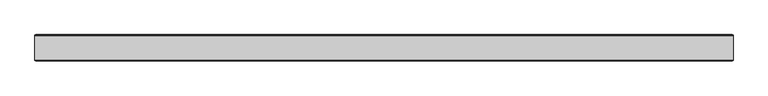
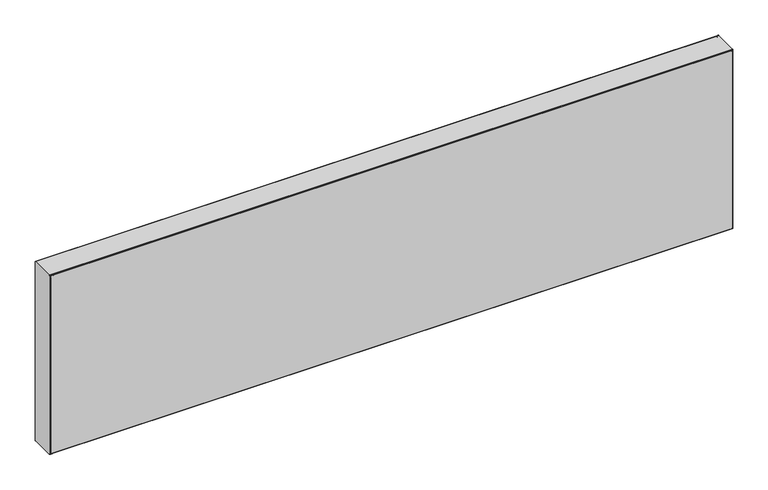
"""IFC4 building model written with IfcOpenShell, lengths in millimetres: proxy geometry, EVRA CV Д : 21-500-1800."""

from ifc_helpers import new_model, si_unit, point, frame, frame_2d, origin, place, context, project, spatial, polyline, circle_curve, trimmed, segment, composite_curve, outline, extrude, source, transform, mapped, element, save


def mechanical_equipment_4d71ee0d(model_context):
    return source(origin(), model_context, "Body", "SweptSolid", [
        extrude(outline(composite_curve([segment(polyline([(598.0, 1093.0), (598.0, -693.0)]), True, "CONTINUOUS"), segment(trimmed(circle_curve(frame_2d((593.0, -693.0)), 5.0), [point((598.0, -693.0))], [point((593.0, -698.0))], False, "CARTESIAN"), True, "CONTINUOUS"), segment(polyline([(593.0, -698.0), (107.0, -698.0)]), True, "CONTINUOUS"), segment(trimmed(circle_curve(frame_2d((107.0, -693.0)), 5.0), [point((107.0, -698.0))], [point((102.0, -693.0))], False, "CARTESIAN"), True, "CONTINUOUS"), segment(polyline([(102.0, -693.0), (102.0, 1093.0)]), True, "CONTINUOUS"), segment(trimmed(circle_curve(frame_2d((107.0, 1093.0)), 5.0), [point((102.0, 1093.0))], [point((107.0, 1098.0))], False, "CARTESIAN"), True, "CONTINUOUS"), segment(polyline([(107.0, 1098.0), (593.0, 1098.0)]), True, "CONTINUOUS"), segment(trimmed(circle_curve(frame_2d((593.0, 1093.0)), 5.0), [point((593.0, 1098.0))], [point((598.0, 1093.0))], False, "CARTESIAN"), True, "CONTINUOUS")], self_intersect=False)), frame((0.0, 11.4631102, 0.0), z_axis=(0.0, 1.0, 0.0), x_axis=(0.0, 0.0, 1.0)), (0.0, 0.0, 1.0), 1.0),
        extrude(outline(composite_curve([segment(polyline([(598.0, 1093.0), (598.0, -693.0)]), True, "CONTINUOUS"), segment(trimmed(circle_curve(frame_2d((593.0, -693.0)), 5.0), [point((598.0, -693.0))], [point((593.0, -698.0))], False, "CARTESIAN"), True, "CONTINUOUS"), segment(polyline([(593.0, -698.0), (107.0, -698.0)]), True, "CONTINUOUS"), segment(trimmed(circle_curve(frame_2d((107.0, -693.0)), 5.0), [point((107.0, -698.0))], [point((102.0, -693.0))], False, "CARTESIAN"), True, "CONTINUOUS"), segment(polyline([(102.0, -693.0), (102.0, 1093.0)]), True, "CONTINUOUS"), segment(trimmed(circle_curve(frame_2d((107.0, 1093.0)), 5.0), [point((102.0, 1093.0))], [point((107.0, 1098.0))], False, "CARTESIAN"), True, "CONTINUOUS"), segment(polyline([(107.0, 1098.0), (593.0, 1098.0)]), True, "CONTINUOUS"), segment(trimmed(circle_curve(frame_2d((593.0, 1093.0)), 5.0), [point((593.0, 1098.0))], [point((598.0, 1093.0))], False, "CARTESIAN"), True, "CONTINUOUS")], self_intersect=False)), frame((0.0, -55.5368898, 0.0), z_axis=(0.0, 1.0, 0.0), x_axis=(0.0, 0.0, 1.0)), (0.0, 0.0, 1.0), 1.0),
        extrude(outline(composite_curve([segment(trimmed(circle_curve(frame_2d((9.4631102, 598.0)), 2.0), [point((9.4631102, 600.0))], [point((11.4631102, 598.0))], False, "CARTESIAN"), True, "CONTINUOUS"), segment(polyline([(11.4631102, 598.0), (11.4631102, 102.0)]), True, "CONTINUOUS"), segment(trimmed(circle_curve(frame_2d((9.4631102, 102.0)), 2.0), [point((11.4631102, 102.0))], [point((9.4631102, 100.0))], False, "CARTESIAN"), True, "CONTINUOUS"), segment(polyline([(9.4631102, 100.0), (-52.5368898, 100.0)]), True, "CONTINUOUS"), segment(trimmed(circle_curve(frame_2d((-52.5368898, 102.0)), 2.0), [point((-52.5368898, 100.0))], [point((-54.5368898, 102.0))], False, "CARTESIAN"), True, "CONTINUOUS"), segment(polyline([(-54.5368898, 102.0), (-54.5368898, 598.0)]), True, "CONTINUOUS"), segment(trimmed(circle_curve(frame_2d((-52.5368898, 598.0)), 2.0), [point((-54.5368898, 598.0))], [point((-52.5368898, 600.0))], False, "CARTESIAN"), True, "CONTINUOUS"), segment(polyline([(-52.5368898, 600.0), (9.4631102, 600.0)]), True, "CONTINUOUS")], self_intersect=False)), frame((-700.0, 0.0, 0.0), z_axis=(1.0, 0.0, 0.0), x_axis=(0.0, 1.0, 0.0)), (0.0, 0.0, 1.0), 1800.0),
    ])


if __name__ == "__main__":
    model = new_model("IFC4")
    model_context = context("Model", 3, world=origin())
    ifc_project = project(units=[si_unit("LENGTHUNIT", "METRE", prefix="MILLI")], contexts=[model_context])
    site = spatial("IfcSite", under=ifc_project)
    building = spatial("IfcBuilding", under=site)
    placement = place(None, origin())
    mechanical_equipment_shape = mechanical_equipment_4d71ee0d(model_context)
    element("IfcBuildingElementProxy", 1, Name="EVRA CV Д : 21-500-1800", ObjectType="EVRA CV Д : 21-500-1800", at=placement, inside=building, context=model_context, shape_type="MappedRepresentation", body=[
        mapped(mechanical_equipment_shape, transform((0.0, 0.0, 0.0), x_axis=(1.0, 0.0, 0.0), y_axis=(0.0, 1.0, 0.0), z_axis=(0.0, 0.0, 1.0))),
    ])
    save(model, "model.ifc")
